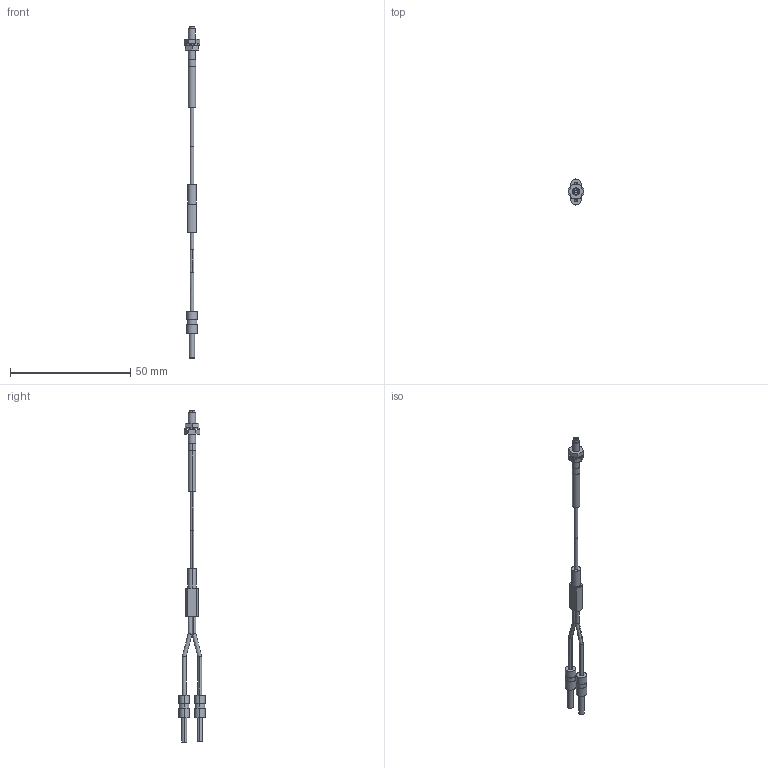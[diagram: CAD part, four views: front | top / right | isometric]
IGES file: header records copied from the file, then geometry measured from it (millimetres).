
Start section: SolidWorks IGES FILE using analytic representation for surfaces
Global section: file name: C:\Documents and Settings\yk0651\デスクトップ\3D_catalog_050904\0_IGES\FD-EG3.IGS; native system: SolidWorks 2004 by SolidWorks Corporation; preprocessor: Version 5.3; author: yk0651; date: 050904.182342; units: millimetre
Bounding box: 6.5 x 10.83 x 138 mm (x, y, z)
Volume: 1162.9 mm3; surface area: 1849.6 mm2
Topology: 7 solids, 7 shells, 98 faces, 204 edges, 133 vertices
Faces by surface type: revolution 53, plane 45
